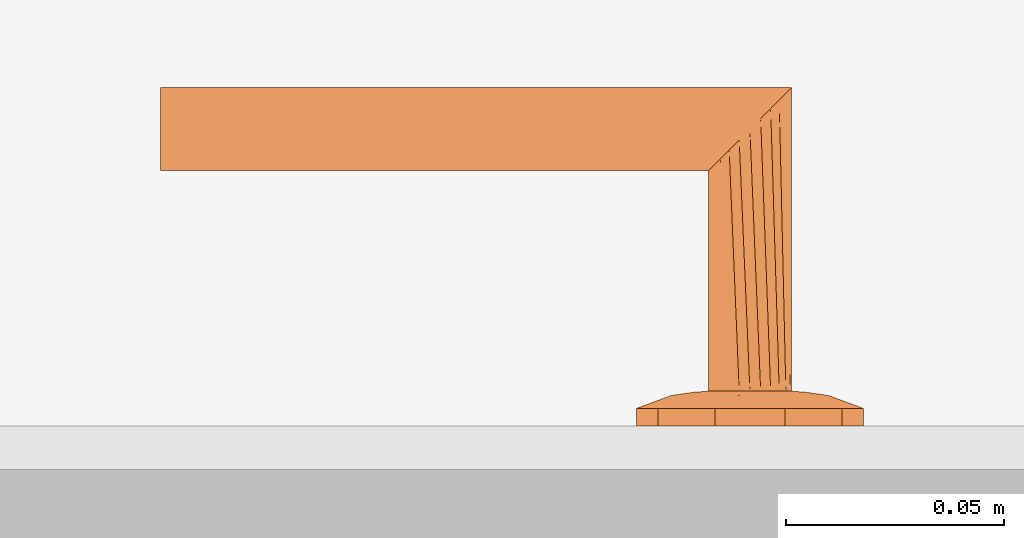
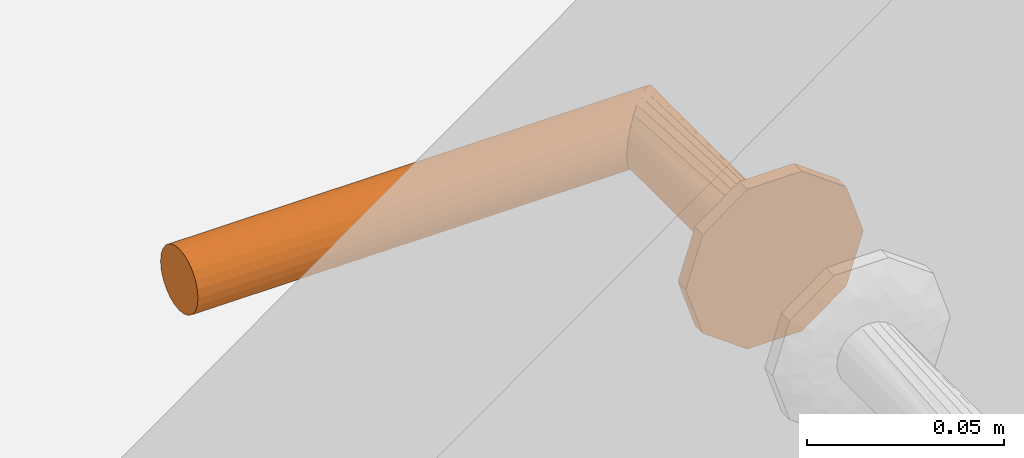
# One storey, part 34 of 42: 1 proxy.
"""IFC2X3 building model written with IfcOpenShell, lengths in millimetres."""

from ifc_helpers import new_model, entity, si_unit, converted_unit, direction, frame, origin, place, context, subcontext, project, spatial, faceted_brep, source, transform, mapped, material, type_object, type_shapes, element, save


model = new_model("IFC2X3")

# Units and contexts
model_context = context("Model", 3, precision=0.01, world=origin(), true_north=direction((6.123233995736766e-17, 1.0)))
plan_context = context("Plan", 3, precision=0.01, world=origin(), true_north=direction((6.123233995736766e-17, 1.0)))
body_context = subcontext(model_context, "Body", "Model", "MODEL_VIEW")
ifc_project = project(units=[si_unit("LENGTHUNIT", "METRE", prefix="MILLI"), converted_unit("PLANEANGLEUNIT", "DEGREE", entity("IfcPlaneAngleMeasure", 0.017453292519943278), si_unit("PLANEANGLEUNIT", "RADIAN"), dimensions=[0, 0, 0, 0, 0, 0, 0]), si_unit("AREAUNIT", "SQUARE_METRE")], contexts=[model_context, plan_context])

# Site, building, storey, space
site_placement = place(None, origin())
site = spatial("IfcSite", under=ifc_project, at=site_placement, Name="Default", CompositionType="ELEMENT")
building_placement = place(site_placement, origin())
building = spatial("IfcBuilding", under=site, at=building_placement, CompositionType="ELEMENT")
storey_placement = place(building_placement, frame((0.0, 0.0, 9465.000076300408)))
storey = spatial("IfcBuildingStorey", under=building, at=storey_placement, Name="4K", CompositionType="ELEMENT", Elevation=9465.000076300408)
space_placement = place(storey_placement, origin())
space = spatial("IfcSpace", under=storey, at=space_placement, Name="4-9.4", CompositionType="ELEMENT", InteriorOrExteriorSpace="INTERNAL")

# Proxy
ifc_material = material(Name="<Unnamed>")
building_element_proxy_type = type_object("IfcBuildingElementProxyType", Name="Door-handle_Lever_ABLOY_INOXI_3-19ss-002_RT:Default", PredefinedType="NOTDEFINED", material=ifc_material)
shared_shape = source(origin(), body_context, "Body", "Brep", [
    faceted_brep([(0.0, 0.0, 0.0), (8.034441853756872, 24.72746942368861, 0.0), (14.534441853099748, 20.00494299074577, 0.0), (21.034441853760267, 15.282416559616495, 0.0), (23.51722092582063, 7.641208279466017, 0.0), (26.0, 0.0, 0.0), (23.517220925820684, -7.641208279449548, 0.0), (0.0, 24.72746942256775, 0.0), (-8.034441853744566, 24.727469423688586, 0.0), (-14.534441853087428, 20.00494299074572, 0.0), (-21.03444185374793, 15.282416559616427, 0.0), (-23.517220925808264, 7.641208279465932, 0.0), (-26.0, 0.0, 0.0), (21.034441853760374, -15.282416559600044, 0.0), (14.534441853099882, -20.004942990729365, 0.0), (8.034441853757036, -24.72746942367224, 0.0), (0.0, -24.72746942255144, 0.0), (-23.517220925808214, -7.641208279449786, 0.0), (-21.034441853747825, -15.282416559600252, 0.0), (-14.53444185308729, -20.004942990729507, 0.0), (-8.0344418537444, -24.72746942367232, 0.0), (0.0, 0.0, 8.0), (9.500000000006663, 0.0, 8.0), (8.312500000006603, 2.056810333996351, 8.0), (7.125000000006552, 4.113620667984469, 8.0), (5.937500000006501, 6.170431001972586, 8.0), (4.7500000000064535, 8.227241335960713, 8.0), (2.375000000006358, 8.2272413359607, 8.0), (0.0, 8.227241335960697, 8.0), (-2.3749999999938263, 8.227241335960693, 8.0), (-4.749999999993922, 8.227241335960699, 8.0), (-5.937499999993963, 6.1704310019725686, 8.0), (-7.124999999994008, 4.1136206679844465, 8.0), (-8.312499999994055, 2.0568103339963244, 8.0), (-9.499999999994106, 0.0, 8.0), (-8.31249999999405, -2.0568103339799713, 8.0), (8.312500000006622, -2.0568103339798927, 8.0), (7.125000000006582, -4.113620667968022, 8.0), (5.937500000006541, -6.170431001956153, 8.0), (4.750000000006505, -8.227241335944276, 8.0), (-7.124999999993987, -4.113620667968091, 8.0), (-5.9374999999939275, -6.17043100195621, 8.0), (-4.74999999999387, -8.227241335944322, 8.0), (-2.374999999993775, -8.227241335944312, 8.0), (0.0, -8.227241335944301, 8.0), (2.3750000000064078, -8.227241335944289, 8.0), (-20.6430713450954, 6.292822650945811, 5.929480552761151), (-16.663919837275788, 7.932665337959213, 6.877259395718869), (-22.48876527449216, 10.806469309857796, 4.030771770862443), (-16.764060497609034, 3.8202578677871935, 7.1747985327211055), (-12.504579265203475, 5.179566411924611, 7.774932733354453), (-11.979136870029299, 13.678312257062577, 6.945778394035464), (-11.963426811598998, 8.62529041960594, 7.618343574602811), (-9.07172672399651, 10.31160661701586, 7.7520782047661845), (8.03444185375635, 24.727469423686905, 4.030771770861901), (0.0, 24.72746942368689, 4.030771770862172), (5.758554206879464, 20.96753300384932, 5.871476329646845), (20.643071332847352, 6.292822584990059, 5.929480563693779), (22.488765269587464, 10.806469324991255, 4.03077177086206), (16.66391982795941, 7.9326653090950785, 6.877259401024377), (9.49943163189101, 18.6436835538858, 6.154325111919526), (14.534441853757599, 20.004942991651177, 4.030771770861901), (-14.534441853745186, 20.00494299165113, 4.030771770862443), (-21.034441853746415, 15.282416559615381, 4.030771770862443), (-15.783149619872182, 11.991003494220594, 6.50080018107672), (-23.943088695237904, 6.330522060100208, 4.030771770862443), (-23.012042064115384, 0.0, 5.135401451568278), (12.50457924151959, 5.179566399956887, 7.774932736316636), (11.963426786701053, 8.625290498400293, 7.618343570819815), (16.76406041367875, 3.820257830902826, 7.17479855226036), (15.783149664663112, 11.991003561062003, 6.50080015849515), (23.01204200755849, 0.0, 5.135401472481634), (17.9853516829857, 0.0, 6.993737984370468), (8.661516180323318, 10.478936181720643, 7.768126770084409), (-3.3573143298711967, 21.197247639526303, 5.971427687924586), (-8.03444185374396, 24.727469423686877, 4.030771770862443), (-7.711266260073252, 12.76034452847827, 7.594456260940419), (-5.97325794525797, 16.43013906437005, 7.110979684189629), (-9.94191586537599, 17.061976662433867, 6.522757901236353), (11.979136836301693, 13.678312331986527, 6.945778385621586), (5.953298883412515, 16.50608604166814, 7.096344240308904), (7.511307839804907, 13.358932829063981, 7.529187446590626), (-1.5654593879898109, 15.307443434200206, 7.519134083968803), (-7.784980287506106, 20.476295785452, 5.812837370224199), (2.8135289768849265, 17.763922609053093, 6.993737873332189), (-17.985351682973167, 0.0, 6.993737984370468), (-26.0, 0.0, 4.030771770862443), (-23.51722092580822, 7.641208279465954, 4.030771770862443), (26.0, 0.0, 4.030771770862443), (24.308823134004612, 5.204907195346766, 4.030771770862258), (23.943088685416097, 6.330522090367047, 4.030771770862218), (21.03444185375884, 15.282416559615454, 4.030771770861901), (22.617646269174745, 10.40981439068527, 4.030771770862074), (20.6430713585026, -6.292822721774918, 5.929480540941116), (16.663919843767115, -7.932665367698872, 6.877259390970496), (22.48876527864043, -10.8064692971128, 4.030771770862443), (16.764060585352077, -3.8202579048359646, 7.174798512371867), (12.504579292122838, -5.17956641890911, 7.774932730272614), (11.979136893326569, -13.678312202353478, 6.9457784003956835), (11.963426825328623, -8.62529034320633, 7.618343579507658), (9.071726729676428, -10.311606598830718, 7.752078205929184), (-8.03444185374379, -24.727469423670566, 4.030771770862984), (0.0, -24.727469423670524, 4.030771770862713), (-5.758554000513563, -20.96753314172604, 5.8714763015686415), (-20.643071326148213, -6.292822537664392, 5.929480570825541), (-22.488765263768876, -10.80646934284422, 4.030771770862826), (-16.66391981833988, -7.932665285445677, 6.877259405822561), (-9.499431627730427, -18.643683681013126, 6.154325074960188), (-14.534441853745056, -20.004942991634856, 4.030771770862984), (14.53444185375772, -20.00494299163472, 4.030771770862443), (21.034441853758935, -15.282416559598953, 4.030771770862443), (15.783149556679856, -11.991003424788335, 6.5008002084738), (23.943088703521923, -6.330522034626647, 4.030771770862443), (-12.504579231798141, -5.17956638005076, 7.77493273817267), (-11.963426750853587, -8.625290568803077, 7.618343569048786), (-16.764060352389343, -3.8202577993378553, 7.174798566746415), (-15.783149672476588, -11.991003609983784, 6.500800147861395), (-8.661516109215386, -10.478936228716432, 7.768126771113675), (3.3573144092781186, -21.197247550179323, 5.971427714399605), (8.034441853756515, -24.727469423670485, 4.030771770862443), (7.711266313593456, -12.760344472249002, 7.5944562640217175), (5.9732581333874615, -16.430139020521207, 7.110979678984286), (9.941915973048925, -17.06197655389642, 6.522757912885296), (-11.979136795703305, -13.678312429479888, 6.945778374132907), (-5.953298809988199, -16.506086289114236, 7.096344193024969), (-7.511307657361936, -13.358932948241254, 7.5291874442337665), (1.5654596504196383, -15.3074431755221, 7.519134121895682), (7.784980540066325, -20.476295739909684, 5.812837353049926), (-2.81352881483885, -17.76392263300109, 6.993737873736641), (23.517220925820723, -7.64120827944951, 4.030771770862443), (-24.308823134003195, -5.20490719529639, 4.030771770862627), (-23.943088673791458, -6.330522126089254, 4.030771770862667), (-21.034441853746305, -15.282416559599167, 4.030771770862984), (-22.617646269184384, -10.409814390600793, 4.0307717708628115)], [[[0, 1, 2]], [[0, 2, 3]], [[0, 3, 4]], [[0, 4, 5]], [[0, 5, 6]], [[0, 7, 1]], [[0, 8, 7]], [[0, 9, 8]], [[0, 10, 9]], [[0, 11, 10]], [[0, 12, 11]], [[0, 6, 13]], [[0, 13, 14]], [[0, 14, 15]], [[0, 15, 16]], [[0, 17, 12]], [[0, 18, 17]], [[0, 19, 18]], [[0, 20, 19]], [[0, 16, 20]], [[21, 22, 23]], [[21, 23, 24]], [[21, 24, 25]], [[21, 25, 26]], [[21, 26, 27]], [[21, 27, 28]], [[21, 28, 29]], [[21, 29, 30]], [[21, 30, 31]], [[21, 31, 32]], [[21, 32, 33]], [[21, 33, 34]], [[21, 34, 35]], [[21, 36, 22]], [[21, 37, 36]], [[21, 38, 37]], [[21, 39, 38]], [[21, 35, 40]], [[21, 40, 41]], [[21, 41, 42]], [[21, 42, 43]], [[21, 43, 44]], [[21, 44, 45]], [[21, 45, 39]], [[46, 47, 48]], [[49, 50, 47]], [[33, 32, 50]], [[51, 52, 53]], [[32, 52, 50]], [[49, 47, 46]], [[54, 55, 56]], [[57, 58, 59]], [[60, 61, 54]], [[62, 63, 64]], [[46, 65, 66]], [[67, 59, 68]], [[23, 69, 67]], [[70, 68, 59]], [[23, 22, 69]], [[52, 51, 64]], [[71, 69, 72]], [[73, 25, 68]], [[74, 55, 75]], [[76, 77, 78]], [[70, 61, 79]], [[71, 57, 69]], [[60, 80, 81]], [[51, 76, 78]], [[77, 29, 82]], [[26, 81, 27]], [[74, 83, 77]], [[77, 82, 74]], [[74, 84, 55]], [[34, 49, 85]], [[23, 67, 24]], [[28, 84, 82]], [[74, 82, 84]], [[29, 76, 30]], [[29, 28, 82]], [[49, 34, 33]], [[47, 50, 52]], [[47, 52, 64]], [[50, 49, 33]], [[53, 76, 51]], [[52, 32, 31]], [[49, 66, 85]], [[86, 66, 65]], [[24, 67, 68]], [[83, 78, 77]], [[49, 46, 66]], [[48, 64, 63]], [[46, 48, 87, 65]], [[48, 47, 64]], [[59, 67, 69]], [[26, 73, 81]], [[79, 68, 70]], [[25, 24, 68]], [[71, 88, 89, 90]], [[22, 72, 69]], [[59, 69, 57]], [[79, 61, 60]], [[51, 62, 64]], [[70, 58, 91]], [[90, 57, 71]], [[58, 70, 59]], [[57, 90, 92]], [[79, 60, 81]], [[61, 70, 91]], [[56, 80, 60]], [[79, 81, 73]], [[80, 84, 27]], [[79, 73, 68]], [[27, 84, 28]], [[25, 73, 26]], [[77, 76, 29]], [[31, 30, 53]], [[78, 62, 51]], [[75, 62, 83]], [[78, 83, 62]], [[75, 83, 74]], [[76, 53, 30]], [[31, 53, 52]], [[81, 80, 27]], [[84, 80, 56]], [[84, 56, 55]], [[54, 56, 60]], [[93, 94, 95]], [[96, 97, 94]], [[36, 37, 97]], [[98, 99, 100]], [[37, 99, 97]], [[96, 94, 93]], [[101, 102, 103]], [[104, 105, 106]], [[107, 108, 101]], [[109, 110, 111]], [[93, 112, 71]], [[113, 106, 114]], [[35, 115, 113]], [[116, 114, 106]], [[35, 34, 115]], [[99, 98, 111]], [[66, 115, 85]], [[117, 41, 114]], [[118, 102, 119]], [[120, 121, 122]], [[116, 108, 123]], [[66, 104, 115]], [[107, 124, 125]], [[120, 45, 121]], [[121, 45, 126]], [[42, 125, 43]], [[118, 127, 121]], [[121, 126, 118]], [[118, 128, 102]], [[22, 96, 72]], [[35, 113, 40]], [[44, 128, 126]], [[118, 126, 128]], [[45, 120, 39]], [[45, 44, 126]], [[96, 22, 36]], [[94, 97, 99]], [[94, 99, 111]], [[97, 96, 36]], [[100, 120, 98]], [[99, 37, 38]], [[96, 71, 72]], [[88, 71, 112]], [[40, 113, 114]], [[127, 122, 121]], [[96, 93, 71]], [[95, 111, 110]], [[93, 95, 129, 112]], [[95, 94, 111]], [[106, 113, 115]], [[42, 117, 125]], [[123, 114, 116]], [[41, 40, 114]], [[66, 86, 130, 131]], [[34, 85, 115]], [[106, 115, 104]], [[123, 108, 107]], [[98, 109, 111]], [[116, 105, 132]], [[131, 104, 66]], [[105, 116, 106]], [[104, 131, 133]], [[123, 107, 125]], [[108, 116, 132]], [[103, 124, 107]], [[123, 125, 117]], [[124, 128, 43]], [[123, 117, 114]], [[43, 128, 44]], [[41, 117, 42]], [[38, 39, 100]], [[98, 120, 122]], [[122, 109, 98]], [[119, 109, 127]], [[122, 127, 109]], [[119, 127, 118]], [[120, 100, 39]], [[38, 100, 99]], [[125, 124, 43]], [[128, 124, 103]], [[128, 103, 102]], [[101, 103, 107]], [[9, 10, 63, 62, 75, 8]], [[11, 12, 86, 65, 87, 48, 63, 10]], [[4, 3, 92, 90, 89, 88, 5]], [[3, 91, 58]], [[55, 54, 1, 7, 8, 75]], [[3, 2, 1, 54, 61, 91]], [[13, 6, 5, 88, 112, 129, 95, 110]], [[119, 15, 14, 13, 110, 109]], [[17, 18, 133, 131, 130, 86, 12]], [[18, 132, 105]], [[102, 101, 20, 16, 15, 119]], [[18, 19, 20, 101, 108, 132]], [[57, 92, 58]], [[104, 133, 105]], [[3, 58, 92]], [[18, 105, 133]]]),
    faceted_brep([(0.0, 9.499999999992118, 8.0), (2.4587809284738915, 9.176295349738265, 8.0), (4.7499999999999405, 8.22724133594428, 8.0), (6.717514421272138, 6.7175144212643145, 8.0), (8.227241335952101, 4.749999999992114, 8.0), (9.17629534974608, 2.458780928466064, 8.0), (9.499999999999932, 0.0, 8.0), (9.17629534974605, -2.458780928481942, 8.0), (8.22724133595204, -4.75000000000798, 8.0), (6.717514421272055, -6.717514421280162, 8.0), (4.7499999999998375, -8.227241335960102, 8.0), (2.4587809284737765, -9.176295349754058, 8.0), (0.0, -9.500000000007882, 8.0), (-2.4587809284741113, -9.176295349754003, 8.0), (-4.750000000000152, -8.227241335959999, 8.0), (-6.717514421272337, -6.717514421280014, 8.0), (-8.227241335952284, -4.750000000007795, 8.0), (-9.176295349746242, -2.458780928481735, 8.0), (-9.500000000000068, 0.0, 8.0), (-9.176295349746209, 2.4587809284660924, 8.0), (-8.227241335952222, 4.74999999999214, 8.0), (-6.717514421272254, 6.717514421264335, 8.0), (-4.7500000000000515, 8.227241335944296, 8.0), (-2.4587809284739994, 9.176295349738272, 8.0), (-6.717514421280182, -6.7175144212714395, 61.282485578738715), (-8.227241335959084, -4.7499999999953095, 59.772758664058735), (-9.176295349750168, -2.458780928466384, 58.82370465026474), (-2.4587809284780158, -9.176295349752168, 65.54121907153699), (-4.750000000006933, -8.227241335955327, 63.25000000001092), (-9.500000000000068, 0.0, 58.50000000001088), (0.0, -9.50000000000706, 68.0), (2.4587809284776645, -9.17629534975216, 70.45878092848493), (4.750000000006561, -8.227241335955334, 72.75000000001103), (6.717514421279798, -6.7175144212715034, 74.71751442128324), (9.17629534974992, -2.458780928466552, 77.17629534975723), (8.22724133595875, -4.749999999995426, 76.22724133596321), (9.499999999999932, 0.0, 77.50000000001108), (9.176295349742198, 2.4587809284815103, 77.1762953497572), (8.227241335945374, 4.750000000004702, 76.22724133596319), (4.749999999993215, 8.227241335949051, 72.75000000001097), (6.7175144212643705, 6.717514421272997, 74.7175144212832), (2.4587809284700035, 9.17629534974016, 70.45878092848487), (-2.4587809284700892, 9.176295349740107, 65.54121907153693), (0.0, 9.49999999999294, 68.0), (-6.717514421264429, 6.717514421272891, 61.282485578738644), (-4.749999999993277, 8.227241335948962, 63.250000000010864), (-9.176295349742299, 2.458780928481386, 58.8237046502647), (-8.227241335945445, 4.750000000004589, 59.77275866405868), (-135.0, 9.500000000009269, 68.0), (-135.0, 9.176295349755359, 65.54121907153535), (-135.0, 8.227241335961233, 63.25000000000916), (-135.0, 6.7175144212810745, 61.28248557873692), (-135.0, 4.750000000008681, 59.772758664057), (-135.0, 2.458780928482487, 58.82370465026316), (-135.0, 0.0, 58.50000000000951), (-135.0, -2.458780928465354, 58.823704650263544), (-135.0, -4.749999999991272, 59.772758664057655), (-135.0, -6.717514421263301, 61.28248557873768), (-135.0, -8.227241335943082, 63.250000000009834), (-135.0, -9.17629534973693, 65.54121907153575), (-135.0, -9.499999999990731, 68.0), (-135.0, -9.17629534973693, 70.45878092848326), (-135.0, -8.227241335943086, 72.75000000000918), (-135.0, -6.717514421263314, 74.71751442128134), (-135.0, -4.749999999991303, 76.22724133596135), (-135.0, -2.4587809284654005, 77.17629534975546), (-135.0, 0.0, 77.5000000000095), (-135.0, 2.4587809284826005, 77.17629534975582), (-135.0, 4.750000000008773, 76.22724133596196), (-135.0, 6.717514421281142, 74.71751442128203), (-135.0, 8.227241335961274, 72.75000000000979), (-135.0, 9.176295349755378, 70.4587809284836)], [[[0, 1, 2, 3, 4, 5, 6, 7, 8, 9, 10, 11, 12, 13, 14, 15, 16, 17, 18, 19, 20, 21, 22, 23]], [[15, 24, 25, 16]], [[16, 25, 26, 17]], [[27, 28, 12]], [[12, 28, 13]], [[13, 28, 24]], [[18, 17, 26, 29]], [[24, 15, 14]], [[14, 13, 24]], [[11, 30, 27]], [[31, 9, 32]], [[32, 8, 33]], [[34, 35, 7]], [[7, 35, 33]], [[36, 34, 7, 6]], [[30, 11, 10]], [[11, 27, 12]], [[33, 8, 7]], [[8, 32, 9]], [[31, 10, 9]], [[10, 31, 30]], [[37, 36, 6, 5]], [[37, 5, 38]], [[39, 40, 4]], [[5, 40, 38]], [[41, 39, 3]], [[5, 4, 40]], [[42, 43, 1]], [[2, 1, 43]], [[2, 41, 3]], [[39, 4, 3]], [[2, 43, 41]], [[23, 44, 45]], [[0, 45, 42]], [[19, 18, 29, 46]], [[20, 19, 46, 47]], [[21, 20, 47, 44]], [[23, 22, 44]], [[45, 0, 23]], [[44, 22, 21]], [[1, 0, 42]], [[48, 49, 50, 51, 52, 53, 54, 55, 56, 57, 58, 59, 60, 61, 62, 63, 64, 65, 66, 67, 68, 69, 70, 71]], [[26, 25, 56, 55]], [[29, 26, 55, 54]], [[28, 27, 59, 58]], [[24, 28, 58, 57]], [[25, 24, 57, 56]], [[27, 30, 60, 59]], [[32, 33, 63, 62]], [[31, 32, 62, 61]], [[34, 36, 66, 65]], [[35, 34, 65, 64]], [[33, 35, 64, 63]], [[61, 60, 30, 31]], [[38, 68, 67, 37]], [[37, 67, 66, 36]], [[41, 71, 70, 39]], [[39, 70, 69, 40]], [[40, 69, 68, 38]], [[48, 71, 41, 43]], [[44, 51, 50, 45]], [[45, 50, 49, 42]], [[29, 54, 53, 46]], [[46, 53, 52, 47]], [[47, 52, 51, 44]], [[42, 49, 48, 43]]]),
])
type_shapes(building_element_proxy_type, [shared_shape])
proxy_placement = place(space_placement, frame((5272.0, 12056.0, 1000.0), z_axis=(0.0, 1.0, 0.0), x_axis=(1.0, 0.0, 0.0)))
element("IfcBuildingElementProxy", 1, at=proxy_placement, inside=space, type_object=building_element_proxy_type, material=ifc_material, Name="Door-handle_Lever_ABLOY_INOXI_3-19ss-002_RT:Default", ObjectType="Door-handle_Lever_ABLOY_INOXI_3-19ss-002_RT:Default", context=body_context, shape_type="MappedRepresentation", body=[
    mapped(shared_shape, transform((0.0, 0.0, 0.0), scale=1.0)),
])

save(model, "model.ifc")
